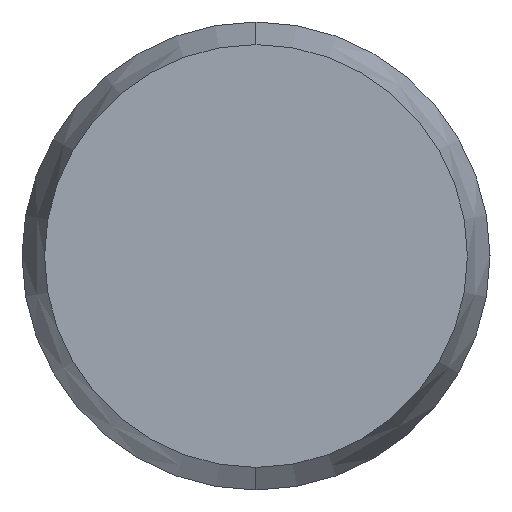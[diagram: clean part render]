
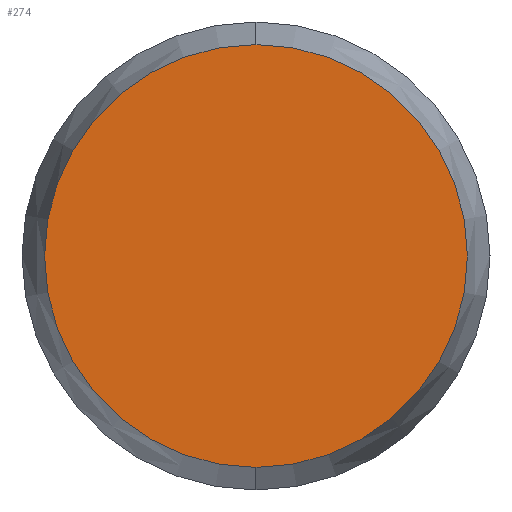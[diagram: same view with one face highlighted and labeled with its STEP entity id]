
A CAD part, left-side view. The second image highlights one B-rep face of the part: STEP entity #274.
In plain terms, the highlighted planar face has unit normal (-1, 0, 0).
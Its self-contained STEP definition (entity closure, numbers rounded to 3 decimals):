
#1 = DIRECTION ( 'NONE',  ( 0., 0., -1. ) ) ;
#50 = CARTESIAN_POINT ( 'NONE',  ( -8., 0., 1.129 ) ) ;
#51 = DIRECTION ( 'NONE',  ( 1., 0., 0. ) ) ;
#52 = CARTESIAN_POINT ( 'NONE',  ( -8., 0., 0. ) ) ;
#53 = AXIS2_PLACEMENT_3D ( 'NONE', #52, #51, #1 ) ;
#54 = CIRCLE ( 'NONE', #53, 1.129 ) ;
#57 = CARTESIAN_POINT ( 'NONE',  ( -8., 0., -1.129 ) ) ;
#121 = CARTESIAN_POINT ( 'NONE',  ( -8., 0., 0. ) ) ;
#122 = DIRECTION ( 'NONE',  ( 0., 0., -1. ) ) ;
#123 = AXIS2_PLACEMENT_3D ( 'NONE', #121, #138, #122 ) ;
#124 = FACE_OUTER_BOUND ( 'NONE', #273, .T. ) ;
#129 = CIRCLE ( 'NONE', #123, 1.129 ) ;
#131 = DIRECTION ( 'NONE',  ( 1., 0., 0. ) ) ;
#132 = CARTESIAN_POINT ( 'NONE',  ( -8., 0., 0. ) ) ;
#133 = PLANE ( 'NONE',  #137 ) ;
#136 = DIRECTION ( 'NONE',  ( 0., 0., -1. ) ) ;
#137 = AXIS2_PLACEMENT_3D ( 'NONE', #132, #131, #136 ) ;
#138 = DIRECTION ( 'NONE',  ( 1., 0., 0. ) ) ;
#236 = VERTEX_POINT ( 'NONE', #50 ) ;
#237 = VERTEX_POINT ( 'NONE', #57 ) ;
#240 = EDGE_CURVE ( 'NONE', #236, #237, #54, .T. ) ;
#263 = EDGE_CURVE ( 'NONE', #237, #236, #129, .T. ) ;
#265 = ORIENTED_EDGE ( 'NONE', *, *, #240, .F. ) ;
#271 = ORIENTED_EDGE ( 'NONE', *, *, #263, .F. ) ;
#273 = EDGE_LOOP ( 'NONE', ( #265, #271 ) ) ;
#274 = ADVANCED_FACE ( 'NONE', ( #124 ), #133, .F. ) ;
